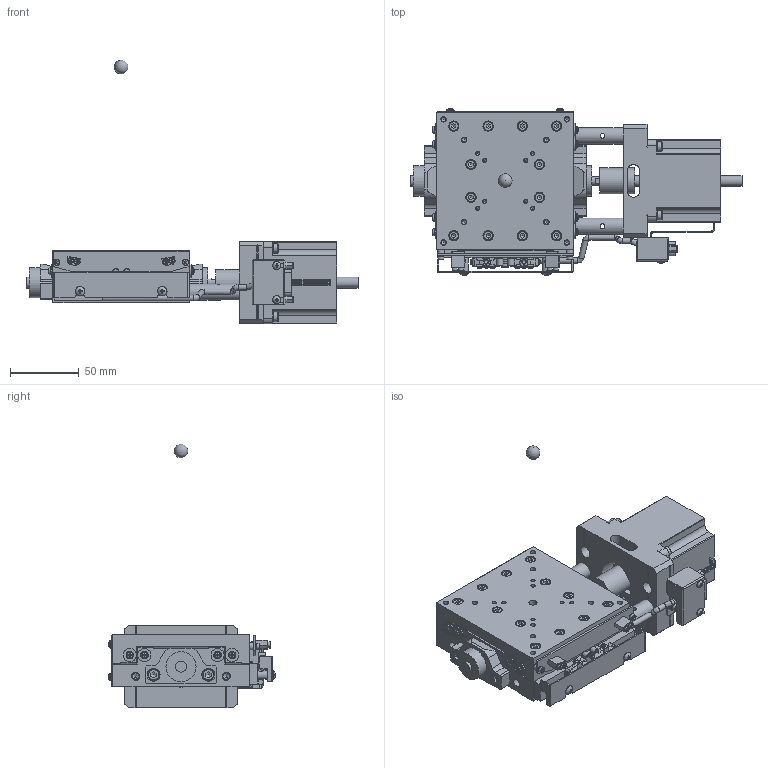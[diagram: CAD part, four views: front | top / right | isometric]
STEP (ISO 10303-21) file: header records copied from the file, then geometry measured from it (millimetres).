
FILE_DESCRIPTION( (''), '2;1');
FILE_NAME ('MVSA10A-RM01-R.stp','2025-02-07T09:38:47',(''),(''),'spGate 20.6.2 (****-****-****-****)','','');
FILE_SCHEMA (('AUTOMOTIVE_DESIGN'));
Length unit declared in the file: millimetre
Products named in the file (4): MVSA10A-RM01-R; rotation center; table; base
Assembly tree (3 placements, depth 2):
  MVSA10A-RM01-R
    rotation center
    table
    base
Bounding box: 242.3 x 121.67 x 192.3 mm (x, y, z)
Volume: 662996.3 mm3; surface area: 139489.3 mm2
Topology: 3 solids, 4 shells, 2971 faces, 7817 edges, 5053 vertices
Faces by surface type: plane 2023, cylinder 612, bspline 293, sphere 43
Full cylindrical faces by diameter (mm): 0.5 x9, 0.9 x15, 1 x9, 1.2 x18, 1.6 x2, 1.7 x9, 1.8 x18, 2 x35, 2.156 x2, 2.3 x1, 2.46 x10, 2.5 x2, 2.6 x2, 2.845 x6, 2.9 x1, 3 x14, 3.2 x2, 3.24 x8, 3.5 x2, 3.8 x4, 4 x29, 4.3 x4, 4.5 x9, 4.7 x2, 4.92 x2, 5 x3, 5.1 x1, 5.5 x17, 5.9 x2, 6 x13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
Entity records: 159823 total; most frequent: CARTESIAN_POINT 25596, ORIENTED_EDGE 15428, DIRECTION 14847, COLOUR_RGB 10688, PRESENTATION_STYLE_ASSIGNMENT 10688, STYLED_ITEM 10688, EDGE_CURVE 7714, DRAUGHTING_PRE_DEFINED_CURVE_FONT 7714
